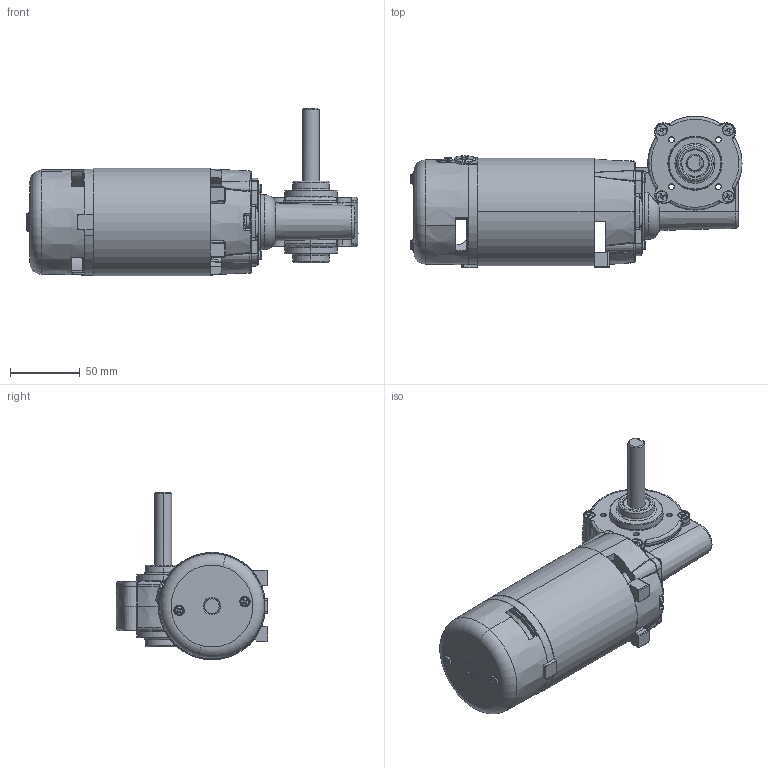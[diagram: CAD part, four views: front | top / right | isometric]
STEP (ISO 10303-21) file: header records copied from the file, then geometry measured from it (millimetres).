
FILE_DESCRIPTION (( 'STEP AP214' ), '1' );
FILE_NAME ('PM2-M.STEP', '2021-07-21T07:55:59', ( '' ), ( '' ), 'SwSTEP 2.0', 'SolidWorks 2020', '' );
FILE_SCHEMA (( 'AUTOMOTIVE_DESIGN' ));
Length unit declared in the file: millimetre
Products named in the file (1): PM2-M
Bounding box: 238.02 x 108.65 x 120.17 mm (x, y, z)
Surface area: 123527 mm2 (no closed solid volume)
Topology: 0 solids, 42 shells, 1353 faces, 3990 edges, 2586 vertices
Faces by surface type: cone 384, plane 291, bspline 265, cylinder 247, torus 139, sphere 27
Entity records: 84701 total; most frequent: CARTESIAN_POINT 36709, ORIENTED_EDGE 7096, DIRECTION 6326, EDGE_CURVE 3935, AXIS2_PLACEMENT_3D 2661, VERTEX_POINT 2584, CIRCLE 1572, EDGE_LOOP 1442
